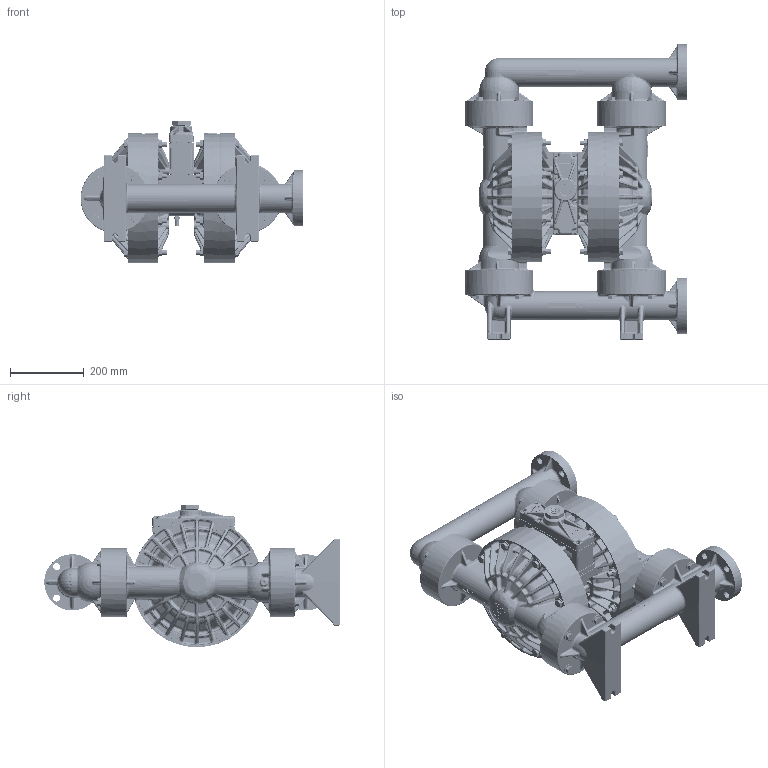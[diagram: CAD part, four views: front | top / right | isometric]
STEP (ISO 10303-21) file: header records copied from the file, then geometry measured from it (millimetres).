
FILE_DESCRIPTION (( 'STEP AP203' ), '1' );
FILE_NAME ('PS800_ADV_POLY_ANSI.STEP', '2022-07-01T17:16:30', ( '' ), ( '' ), 'SwSTEP 2.0', 'SolidWorks 2019', '' );
FILE_SCHEMA (( 'CONFIG_CONTROL_DESIGN' ));
Products named in the file (1): PS800_ADV_POLY_ANSI
Bounding box: 603.76 x 800.61 x 387.42 mm (x, y, z)
Volume: 41666739 mm3; surface area: 2190303.4 mm2
Topology: 1 solids, 1 shells, 12879 faces, 31326 edges, 18581 vertices
Faces by surface type: bspline 5310, plane 3114, cylinder 1374, cone 1326, torus 1135, sphere 620
Entity records: 773036 total; most frequent: CARTESIAN_POINT 514363, ORIENTED_EDGE 62136, DIRECTION 43349, EDGE_CURVE 31068, VERTEX_POINT 18425, AXIS2_PLACEMENT_3D 17603, EDGE_LOOP 13177, FACE_OUTER_BOUND 12879
